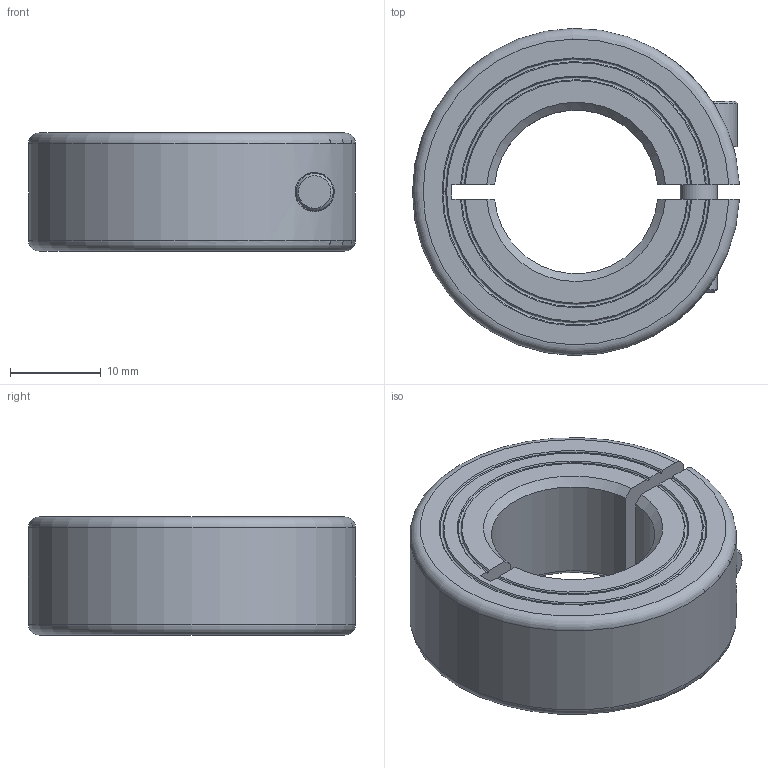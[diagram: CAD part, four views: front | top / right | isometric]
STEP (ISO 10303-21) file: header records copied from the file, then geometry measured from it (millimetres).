
FILE_DESCRIPTION((''),'2;1');
FILE_NAME('MCL-18-F','2016-09-08T',('SYSTEM'),(''),'PRO/ENGINEER BY PARAMETRIC TECHNOLOGY CORPORATION, 2015110','PRO/ENGINEER BY PARAMETRIC TECHNOLOGY CORPORATION, 2015110','');
FILE_SCHEMA(('AUTOMOTIVE_DESIGN { 1 0 10303 214 1 1 1 1 }'));
Length unit declared in the file: inch
Products named in the file (1): MCL-18-F
Bounding box: 35.98 x 35.99 x 13 mm (x, y, z)
Volume: 9308.6 mm3; surface area: 4555.9 mm2
Topology: 1 solids, 1 shells, 57 faces, 149 edges, 98 vertices
Faces by surface type: plane 22, cone 15, cylinder 14, torus 6
Entity records: 2360 total; most frequent: CARTESIAN_POINT 504, ORIENTED_EDGE 298, DIRECTION 282, EDGE_CURVE 149, AXIS2_PLACEMENT_3D 111, VERTEX_POINT 98, EDGE_LOOP 63, VECTOR 60
